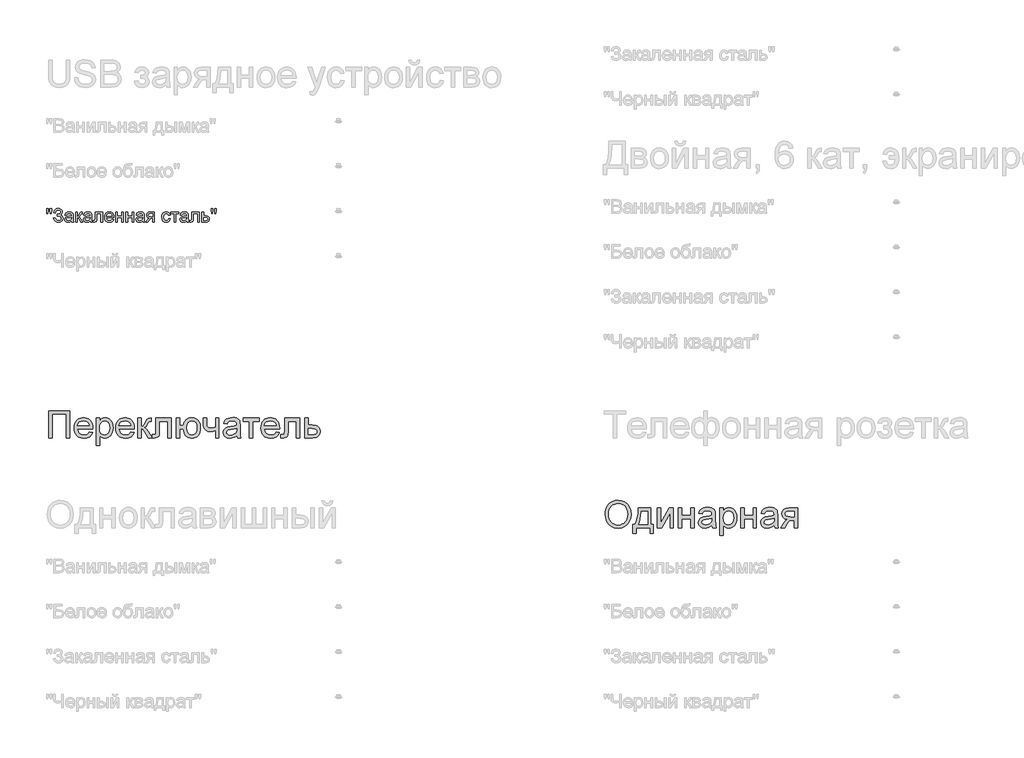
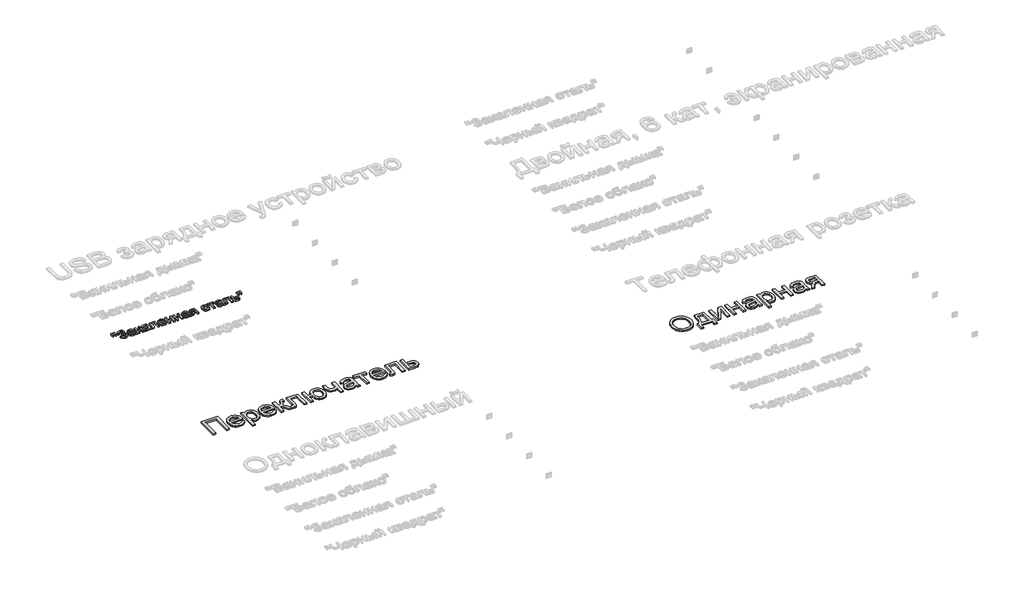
# One storey, part 144 of 168: 3 proxies.
"""IFC4 building model written with IfcOpenShell, lengths in millimetres."""

from ifc_helpers import new_model, si_unit, origin, origin_with_axes, place, context, project, spatial, polyline, outline, extrude, element, save

model = new_model("IFC4")

# Units and contexts
model_context = context("Model", 3, world=origin())
ifc_project = project(units=[si_unit("LENGTHUNIT", "METRE", prefix="MILLI")], contexts=[model_context])

# Site, building, storey
site = spatial("IfcSite", under=ifc_project)
building = spatial("IfcBuilding", under=site)
storey = spatial("IfcBuildingStorey", under=building, Name="Этаж 01", Elevation=0.0)

# Proxies
placement = place(None, origin())
element("IfcBuildingElementProxy", 1, Name="300 мм Arial 2", ObjectType="300 мм Arial 2", at=placement, inside=storey, context=model_context, shape_type="SweptSolid", body=[
    extrude(outline(polyline([(71099.0945017, -19547.0367511), (71334.5389786, -19547.0367511), (71334.5389786, -19848.4056816), (71296.8678623, -19848.4056816), (71296.8678623, -19584.7078674), (71136.765618, -19584.7078674), (71136.765618, -19848.4056816), (71099.0945017, -19848.4056816), (71099.0945017, -19547.0367511)])), origin_with_axes(), (0.0, 0.0, 1.0), 20.0),
    extrude(outline(polyline([(71550.7064389, -19782.481228), (71587.6417913, -19787.1901176), (71574.3336601, -19815.0203905), (71553.0976719, -19835.8241173), (71524.4120733, -19848.7919577), (71488.7551109, -19853.1145711), (71465.3808087, -19851.2498692), (71444.5540892, -19845.6557637), (71426.2749526, -19836.3322543), (71410.5433988, -19823.2793413), (71397.8928567, -19806.860308), (71388.8567552, -19787.4384379), (71383.4350943, -19765.013731), (71381.627874, -19739.5861874), (71383.4534884, -19713.2964203), (71388.9303316, -19690.1244531), (71398.0584036, -19670.0702859), (71410.8377044, -19653.1339185), (71426.5278715, -19639.6786346), (71444.3885423, -19630.0677174), (71464.419717, -19624.3011672), (71486.6213954, -19622.3789837), (71508.1080032, -19624.2965686), (71527.5390703, -19630.0493233), (71544.9145968, -19639.6372478), (71560.2345826, -19653.0603421), (71572.7402712, -19669.9599213), (71581.6729059, -19689.9773003), (71587.0324867, -19713.1124793), (71588.8190136, -19739.3654582), (71588.5982844, -19749.5190013), (71419.2989903, -19749.5190013), (71425.8196986, -19777.7171562), (71440.9672398, -19798.4473066), (71462.8286273, -19811.1944178), (71489.4908749, -19815.4434548), (71509.5404437, -19813.4752861), (71526.4262273, -19807.5707801), (71540.1482257, -19797.3620547), (71550.7064389, -19782.481228)]), holes=[polyline([(71419.2989903, -19711.847885), (71551.1478973, -19711.847885), (71546.0527317, -19691.945469), (71536.0647355, -19677.7084358), (71514.1021804, -19664.464684), (71486.4742426, -19660.0501), (71461.0811879, -19663.5725701), (71440.084323, -19674.1399805), (71425.4886048, -19690.6118968), (71419.2989903, -19711.847885)])]), origin_with_axes(), (0.0, 0.0, 1.0), 20.0),
    extrude(outline(polyline([(71626.4901299, -19933.1656933), (71626.4901299, -19627.0878733), (71664.1612462, -19627.0878733), (71664.1612462, -19664.0232256), (71676.4485049, -19645.8038698), (71690.2072915, -19632.7900442), (71706.2469465, -19624.9817488), (71725.3768102, -19622.3789837), (71750.8526384, -19626.0210155), (71773.1278932, -19636.9471107), (71791.2644756, -19654.4950819), (71804.3242864, -19678.0027414), (71812.2153552, -19705.7594379), (71814.8457115, -19736.0545202), (71811.8750644, -19768.271786), (71802.963123, -19797.0861432), (71788.394996, -19821.0352611), (71768.4557919, -19838.6568087), (71745.2332409, -19849.5001305), (71720.8150735, -19853.1145711), (71703.4970286, -19850.695747), (71688.0367877, -19843.4392746), (71674.802233, -19832.4855882), (71664.1612462, -19818.975122), (71664.1612462, -19933.1656933), (71626.4901299, -19933.1656933)]), holes=[polyline([(71664.1612462, -19739.512611), (71668.2355393, -19773.2841782), (71680.4584186, -19796.9022022), (71698.4938334, -19810.8081417), (71720.0057331, -19815.4434548), (71741.8671207, -19810.6425948), (71760.362388, -19796.2400147), (71772.9715434, -19771.7574679), (71777.1745952, -19736.7167078), (71773.0727109, -19703.1290817), (71760.7670582, -19679.1799638), (71742.7592345, -19664.832566), (71721.5508375, -19660.0501), (71700.259667, -19665.1360686), (71681.5620646, -19680.3939744), (71668.5114508, -19705.3455707), (71664.1612462, -19739.512611)])]), origin_with_axes(), (0.0, 0.0, 1.0), 20.0),
    extrude(outline(polyline([(72012.1776137, -19782.481228), (72049.112966, -19787.1901176), (72035.8048348, -19815.0203905), (72014.5688467, -19835.8241173), (71985.8832481, -19848.7919577), (71950.2262857, -19853.1145711), (71926.8519834, -19851.2498692), (71906.025264, -19845.6557637), (71887.7461273, -19836.3322543), (71872.0145735, -19823.2793413), (71859.3640314, -19806.860308), (71850.3279299, -19787.4384379), (71844.906269, -19765.013731), (71843.0990487, -19739.5861874), (71844.9246631, -19713.2964203), (71850.4015063, -19690.1244531), (71859.5295783, -19670.0702859), (71872.3088791, -19653.1339185), (71887.9990462, -19639.6786346), (71905.8597171, -19630.0677174), (71925.8908917, -19624.3011672), (71948.0925701, -19622.3789837), (71969.5791779, -19624.2965686), (71989.010245, -19630.0493233), (72006.3857715, -19639.6372478), (72021.7057574, -19653.0603421), (72034.2114459, -19669.9599213), (72043.1440806, -19689.9773003), (72048.5036614, -19713.1124793), (72050.2901884, -19739.3654582), (72050.0694592, -19749.5190013), (71880.770165, -19749.5190013), (71887.2908734, -19777.7171562), (71902.4384145, -19798.4473066), (71924.2998021, -19811.1944178), (71950.9620497, -19815.4434548), (71971.0116184, -19813.4752861), (71987.897402, -19807.5707801), (72001.6194004, -19797.3620547), (72012.1776137, -19782.481228)]), holes=[polyline([(71880.770165, -19711.847885), (72012.6190721, -19711.847885), (72007.5239064, -19691.945469), (71997.5359103, -19677.7084358), (71975.5733552, -19664.464684), (71947.9454173, -19660.0501), (71922.5523626, -19663.5725701), (71901.5554977, -19674.1399805), (71886.9597796, -19690.6118968), (71880.770165, -19711.847885)])]), origin_with_axes(), (0.0, 0.0, 1.0), 20.0),
    extrude(outline(polyline([(72290.4435548, -19627.0878733), (72459.9635782, -19627.0878733), (72459.9635782, -19848.1849524), (72422.2924619, -19848.1849524), (72422.2924619, -19664.7589896), (72328.1146711, -19664.7589896), (72328.1146711, -19770.3411222), (72325.5762854, -19819.0486984), (72320.8214106, -19830.0759612), (72311.6335578, -19839.6133019), (72297.6908301, -19846.2075866), (72278.671331, -19848.4056816), (72248.063549, -19846.4926952), (72248.063549, -19810.7345653), (72264.9125444, -19810.7345653), (72281.9454807, -19808.4169087), (72288.7512977, -19801.0592688), (72290.4435548, -19768.2074066), (72290.4435548, -19627.0878733)])), origin_with_axes(), (0.0, 0.0, 1.0), 20.0),
    extrude(outline(polyline([(72087.9613047, -19627.0878733), (72125.632421, -19627.0878733), (72125.632421, -19721.265664), (72140.9547061, -19719.5734069), (72150.8691259, -19714.4966353), (72159.6431115, -19701.2528835), (72171.544094, -19675.0596854), (72188.7241832, -19641.0306009), (72203.8809214, -19629.9573528), (72231.4352828, -19627.0878733), (72238.6457699, -19627.0878733), (72238.6457699, -19664.9797188), (72228.4922269, -19664.7589896), (72210.0981271, -19668.7321151), (72197.1486809, -19693.5273616), (72181.9551545, -19720.345959), (72160.6547869, -19733.4793463), (72172.5925577, -19738.7814455), (72184.4199638, -19748.1394438), (72207.7436823, -19779.0231373), (72248.063549, -19848.4056816), (72205.2420848, -19848.4056816), (72165.7315585, -19780.4946653), (72145.8659307, -19751.7630814), (72136.5769104, -19746.5483542), (72125.632421, -19744.8101117), (72125.632421, -19848.4056816), (72087.9613047, -19848.4056816), (72087.9613047, -19627.0878733)])), origin_with_axes(), (0.0, 0.0, 1.0), 20.0),
    extrude(outline(polyline([(72516.4702527, -19627.0878733), (72554.141369, -19627.0878733), (72554.141369, -19711.847885), (72596.5213748, -19711.847885), (72606.2978388, -19673.4410047), (72614.8212048, -19658.1003255), (72625.7679934, -19645.3348202), (72638.8301035, -19635.2916418), (72653.6994339, -19628.1179429), (72688.8597556, -19622.3789837), (72718.4098769, -19625.754301), (72740.9886343, -19635.880253), (72758.4078468, -19651.929105), (72772.4793331, -19673.0731227), (72781.7775505, -19700.8850015), (72784.8769564, -19736.937437), (72783.2743704, -19763.7928227), (72778.4666126, -19787.1901176), (72770.4536829, -19807.1293217), (72759.2355813, -19823.6104351), (72745.2721603, -19836.5184946), (72729.0232724, -19845.7385371), (72710.4889177, -19851.2705626), (72689.669096, -19853.1145711), (72670.26562, -19851.3855257), (72652.8900935, -19846.1983896), (72637.5425166, -19837.5531627), (72624.2228891, -19825.4498451), (72613.2623049, -19810.3298951), (72604.9918578, -19792.6347711), (72596.5213748, -19749.5190013), (72554.141369, -19749.5190013), (72554.141369, -19848.4056816), (72516.4702527, -19848.4056816), (72516.4702527, -19627.0878733)]), holes=[polyline([(72691.2877768, -19660.0501), (72667.2742795, -19664.9245365), (72649.2388647, -19679.5478458), (72637.9540845, -19702.9635348), (72634.1924911, -19734.2151103), (72637.9816757, -19770.6262307), (72649.3492293, -19795.8353445), (72667.0627474, -19810.5414272), (72689.8898252, -19815.4434548), (72712.7812824, -19810.9093092), (72731.1293969, -19797.3068724), (72743.1867293, -19773.6060749), (72747.20584, -19738.776847), (72743.7293552, -19704.3338952), (72733.2999006, -19679.7317868), (72715.8439, -19664.9705217), (72691.2877768, -19660.0501)])]), origin_with_axes(), (0.0, 0.0, 1.0), 20.0),
    extrude(outline(polyline([(72817.8391831, -19627.0878733), (72855.5102994, -19627.0878733), (72855.5102994, -19669.5414555), (72858.56372, -19709.3462874), (72863.7600532, -19720.9161761), (72873.2422116, -19730.9041723), (72886.3388106, -19737.8019597), (72902.3784656, -19740.1012222), (72925.4262726, -19737.2501367), (72954.3969797, -19728.6968803), (72954.3969797, -19627.0878733), (72992.068096, -19627.0878733), (72992.068096, -19848.4056816), (72954.3969797, -19848.4056816), (72954.3969797, -19764.8228923), (72922.2440934, -19774.5349769), (72892.2984989, -19777.7723385), (72869.5174064, -19774.3970212), (72849.5873993, -19764.2710693), (72834.0535821, -19749.2522868), (72824.461059, -19731.1984779), (72819.4946521, -19710.6522685), (72817.8391831, -19688.1562845), (72817.8391831, -19627.0878733)])), origin_with_axes(), (0.0, 0.0, 1.0), 20.0),
    extrude(outline(polyline([(73189.8414566, -19820.1523443), (73171.84283, -19835.584994), (73153.3107745, -19845.6833548), (73133.8222258, -19851.256767), (73112.9541197, -19853.1145711), (73081.4726179, -19848.6448049), (73058.250067, -19835.2355061), (73043.9302603, -19814.8732377), (73039.1569914, -19789.5445623), (73040.9596132, -19773.9279716), (73046.3674785, -19759.7461207), (73054.7092028, -19747.6060149), (73065.3134013, -19738.1146594), (73091.6905403, -19725.7538244), (73124.2848851, -19720.0884417), (73162.80213, -19714.1287533), (73189.6207274, -19707.1389954), (73189.8414566, -19698.7512859), (73187.2478886, -19681.9390788), (73179.4671844, -19670.9394071), (73162.066366, -19662.7724268), (73137.8229425, -19660.0501), (73115.3821408, -19661.8619189), (73099.7103678, -19667.2973753), (73089.0233959, -19677.3497509), (73081.5369973, -19693.0123268), (73043.865881, -19688.3034373), (73050.4049834, -19667.7020455), (73060.1630533, -19651.5152378), (73074.0505987, -19639.1360086), (73092.9781273, -19629.9573528), (73116.1271019, -19624.273576), (73142.6789849, -19622.3789837), (73168.145616, -19624.0528468), (73188.3331405, -19629.074436), (73203.554258, -19636.625214), (73214.1216683, -19645.8866432), (73221.1298203, -19657.3369703), (73225.673163, -19671.4544419), (73227.512573, -19704.4166687), (73227.512573, -19751.2848348), (73229.4255593, -19816.7310418), (73236.930352, -19848.4056816), (73199.2592357, -19848.4056816), (73189.8414566, -19820.1523443)]), holes=[polyline([(73189.8414566, -19744.8101117), (73129.067351, -19756.3616064), (73096.6569473, -19762.4684475), (73081.9784557, -19772.4012614), (73076.8281077, -19786.895812), (73079.6332079, -19798.0978187), (73088.0485086, -19807.2764745), (73101.8900686, -19813.4017097), (73120.9739471, -19815.4434548), (73141.2074569, -19813.1901776), (73159.0865218, -19806.4303459), (73173.5810725, -19796.4699409), (73183.6610391, -19784.6149436), (73188.1308054, -19772.4012614), (73189.6207274, -19755.4786896), (73189.8414566, -19744.8101117)])]), origin_with_axes(), (0.0, 0.0, 1.0), 20.0),
    extrude(outline(polyline([(73260.4747997, -19627.0878733), (73439.4126022, -19627.0878733), (73439.4126022, -19664.7589896), (73368.7792591, -19664.7589896), (73368.7792591, -19848.4056816), (73331.1081428, -19848.4056816), (73331.1081428, -19664.7589896), (73260.4747997, -19664.7589896), (73260.4747997, -19627.0878733)])), origin_with_axes(), (0.0, 0.0, 1.0), 20.0),
    extrude(outline(polyline([(73627.3267253, -19782.481228), (73664.2620776, -19787.1901176), (73650.9539465, -19815.0203905), (73629.7179583, -19835.8241173), (73601.0323597, -19848.7919577), (73565.3753973, -19853.1145711), (73542.0010951, -19851.2498692), (73521.1743756, -19845.6557637), (73502.895239, -19836.3322543), (73487.1636851, -19823.2793413), (73474.513143, -19806.860308), (73465.4770415, -19787.4384379), (73460.0553806, -19765.013731), (73458.2481603, -19739.5861874), (73460.0737747, -19713.2964203), (73465.5506179, -19690.1244531), (73474.6786899, -19670.0702859), (73487.4579907, -19653.1339185), (73503.1481578, -19639.6786346), (73521.0088287, -19630.0677174), (73541.0400033, -19624.3011672), (73563.2416818, -19622.3789837), (73584.7282895, -19624.2965686), (73604.1593567, -19630.0493233), (73621.5348831, -19639.6372478), (73636.854869, -19653.0603421), (73649.3605576, -19669.9599213), (73658.2931923, -19689.9773003), (73663.6527731, -19713.1124793), (73665.4393, -19739.3654582), (73665.2185708, -19749.5190013), (73495.9192766, -19749.5190013), (73502.439985, -19777.7171562), (73517.5875261, -19798.4473066), (73539.4489137, -19811.1944178), (73566.1111613, -19815.4434548), (73586.1607301, -19813.4752861), (73603.0465136, -19807.5707801), (73616.768512, -19797.3620547), (73627.3267253, -19782.481228)]), holes=[polyline([(73495.9192766, -19711.847885), (73627.7681837, -19711.847885), (73622.6730181, -19691.945469), (73612.6850219, -19677.7084358), (73590.7224668, -19664.464684), (73563.094529, -19660.0501), (73537.7014742, -19663.5725701), (73516.7046094, -19674.1399805), (73502.1088912, -19690.6118968), (73495.9192766, -19711.847885)])]), origin_with_axes(), (0.0, 0.0, 1.0), 20.0),
    extrude(outline(polyline([(73721.9459745, -19627.0878733), (73891.4659978, -19627.0878733), (73891.4659978, -19848.1849524), (73853.7948815, -19848.1849524), (73853.7948815, -19664.7589896), (73759.6170908, -19664.7589896), (73759.6170908, -19770.3411222), (73757.078705, -19819.0486984), (73752.3238302, -19830.0759612), (73743.1359774, -19839.6133019), (73729.1932498, -19846.2075866), (73710.1737506, -19848.4056816), (73679.5659686, -19846.4926952), (73679.5659686, -19810.7345653), (73696.414964, -19810.7345653), (73713.4479004, -19808.4169087), (73720.2537173, -19801.0592688), (73721.9459745, -19768.2074066), (73721.9459745, -19627.0878733)])), origin_with_axes(), (0.0, 0.0, 1.0), 20.0),
    extrude(outline(polyline([(73947.9726723, -19627.0878733), (73985.6437886, -19627.0878733), (73985.6437886, -19707.1389954), (74029.053864, -19707.1389954), (74066.6881922, -19711.857082), (74081.8357333, -19717.7546902), (74094.5368592, -19726.0113418), (74104.5800377, -19736.3419281), (74111.7537366, -19748.4613405), (74117.4926957, -19778.0666441), (74112.6090622, -19805.0231973), (74097.9581617, -19827.7675016), (74086.7262646, -19836.7967054), (74072.565107, -19843.2461366), (74035.4550108, -19848.4056816), (73947.9726723, -19848.4056816), (73947.9726723, -19627.0878733)]), holes=[polyline([(73985.6437886, -19810.7345653), (74020.8133074, -19810.7345653), (74048.1009543, -19808.7571995), (74066.2467338, -19802.8251024), (74076.427868, -19792.6991504), (74079.8215794, -19778.1402205), (74077.3107848, -19765.8345678), (74069.7784009, -19754.9636548), (74053.6375784, -19747.3484975), (74025.3014677, -19744.8101117), (73985.6437886, -19744.8101117), (73985.6437886, -19810.7345653)])]), origin_with_axes(), (0.0, 0.0, 1.0), 20.0),
])
element("IfcBuildingElementProxy", 2, Name="300 мм Arial 2", ObjectType="300 мм Arial 2", at=placement, inside=storey, context=model_context, shape_type="SweptSolid", body=[
    extrude(outline(polyline([(77284.967833, -20701.6943419), (77287.4786277, -20666.3454807), (77295.0110115, -20635.0525185), (77307.5649846, -20607.8154552), (77325.1405469, -20584.634291), (77346.6846363, -20566.1252281), (77371.1441904, -20552.9044689), (77398.5192094, -20544.9720134), (77428.8096932, -20542.3278616), (77468.3386135, -20547.2942685), (77503.7840438, -20562.1934893), (77533.2146034, -20585.9770603), (77554.6989119, -20617.5965178), (77567.8322991, -20655.5251515), (77572.2100949, -20698.2362511), (77567.6023729, -20741.5175679), (77553.7792069, -20779.9796305), (77531.5039521, -20811.6542703), (77501.5399636, -20834.5733186), (77466.398036, -20848.479258), (77428.588964, -20853.1145711), (77388.4530383, -20847.9918143), (77352.805273, -20832.623544), (77323.4482897, -20808.3985146), (77302.1847104, -20776.7054807), (77289.2720524, -20740.2391779), (77284.967833, -20701.6943419)]), holes=[polyline([(77322.6389493, -20702.0622239), (77324.5220453, -20727.0368128), (77330.1713332, -20749.2063016), (77339.586813, -20768.5706901), (77352.7684848, -20785.1299784), (77368.7920449, -20798.3921243), (77386.73319, -20807.8650857), (77406.5919199, -20813.5488625), (77428.3682348, -20815.4434548), (77450.5170301, -20813.5304684), (77470.6102849, -20807.7915093), (77488.6479989, -20798.2265774), (77504.6301724, -20784.8356728), (77517.7152751, -20767.9268966), (77527.061777, -20747.80835), (77532.6696782, -20724.480033), (77534.5389786, -20697.9419455), (77531.3384052, -20664.5934427), (77521.7366851, -20635.7698884), (77505.9821387, -20612.1978495), (77484.3230862, -20594.6038931), (77458.1942675, -20583.6502067), (77429.0304224, -20579.9989779), (77408.0105649, -20581.7579137), (77388.5082206, -20587.034721), (77370.5233895, -20595.8294), (77354.0560717, -20608.1419505), (77340.3110807, -20624.5655823), (77330.4932299, -20645.6935052), (77324.6025195, -20671.525719), (77322.6389493, -20702.0622239)])]), origin_with_axes(), (0.0, 0.0, 1.0), 20.0),
    extrude(outline(polyline([(77652.261217, -20627.0878733), (77793.5279032, -20627.0878733), (77793.5279032, -20810.7345653), (77821.7812404, -20810.7345653), (77821.7812404, -20909.6212456), (77784.1101241, -20909.6212456), (77784.1101241, -20848.4056816), (77628.7167693, -20848.4056816), (77628.7167693, -20909.6212456), (77591.045653, -20909.6212456), (77591.045653, -20810.7345653), (77614.5901007, -20810.7345653), (77631.7058105, -20779.8048865), (77643.6895665, -20738.8872116), (77650.5413687, -20687.9815405), (77652.261217, -20627.0878733)]), holes=[polyline([(77685.2234438, -20664.7589896), (77682.133235, -20710.8821947), (77676.3942759, -20750.5858591), (77668.0065664, -20783.8699826), (77656.9701066, -20810.7345653), (77755.8567869, -20810.7345653), (77755.8567869, -20664.7589896), (77685.2234438, -20664.7589896)])]), origin_with_axes(), (0.0, 0.0, 1.0), 20.0),
    extrude(outline(polyline([(77864.1612462, -20627.0878733), (77901.8323626, -20627.0878733), (77901.8323626, -20795.8721327), (77994.3914725, -20627.0878733), (78043.0990487, -20627.0878733), (78043.0990487, -20848.4056816), (78005.4279324, -20848.4056816), (78005.4279324, -20680.6514918), (77913.4574336, -20848.4056816), (77864.1612462, -20848.4056816), (77864.1612462, -20627.0878733)])), origin_with_axes(), (0.0, 0.0, 1.0), 20.0),
    extrude(outline(polyline([(78099.6057232, -20627.0878733), (78137.2768395, -20627.0878733), (78137.2768395, -20711.847885), (78236.1635198, -20711.847885), (78236.1635198, -20627.0878733), (78273.8346361, -20627.0878733), (78273.8346361, -20848.4056816), (78236.1635198, -20848.4056816), (78236.1635198, -20749.5190013), (78137.2768395, -20749.5190013), (78137.2768395, -20848.4056816), (78099.6057232, -20848.4056816), (78099.6057232, -20627.0878733)])), origin_with_axes(), (0.0, 0.0, 1.0), 20.0),
    extrude(outline(polyline([(78471.6079967, -20820.1523443), (78453.6093701, -20835.584994), (78435.0773146, -20845.6833548), (78415.5887659, -20851.256767), (78394.7206597, -20853.1145711), (78363.239158, -20848.6448049), (78340.016607, -20835.2355061), (78325.6968003, -20814.8732377), (78320.9235315, -20789.5445623), (78322.7261532, -20773.9279716), (78328.1340186, -20759.7461207), (78336.4757428, -20747.6060149), (78347.0799413, -20738.1146594), (78373.4570804, -20725.7538244), (78406.0514251, -20720.0884417), (78444.56867, -20714.1287533), (78471.3872675, -20707.1389954), (78471.6079967, -20698.7512859), (78469.0144286, -20681.9390788), (78461.2337244, -20670.9394071), (78443.832906, -20662.7724268), (78419.5894826, -20660.0501), (78397.1486809, -20661.8619189), (78381.4769079, -20667.2973753), (78370.7899359, -20677.3497509), (78363.3035373, -20693.0123268), (78325.632421, -20688.3034373), (78332.1715235, -20667.7020455), (78341.9295934, -20651.5152378), (78355.8171387, -20639.1360086), (78374.7446674, -20629.9573528), (78397.8936419, -20624.273576), (78424.4455249, -20622.3789837), (78449.912156, -20624.0528468), (78470.0996805, -20629.074436), (78485.3207981, -20636.625214), (78495.8882084, -20645.8866432), (78502.8963604, -20657.3369703), (78507.439703, -20671.4544419), (78509.279113, -20704.4166687), (78509.279113, -20751.2848348), (78511.1920994, -20816.7310418), (78518.6968921, -20848.4056816), (78481.0257758, -20848.4056816), (78471.6079967, -20820.1523443)]), holes=[polyline([(78471.6079967, -20744.8101117), (78410.8338911, -20756.3616064), (78378.4234873, -20762.4684475), (78363.7449957, -20772.4012614), (78358.5946478, -20786.895812), (78361.399748, -20798.0978187), (78369.8150486, -20807.2764745), (78383.6566087, -20813.4017097), (78402.7404872, -20815.4434548), (78422.9739969, -20813.1901776), (78440.8530619, -20806.4303459), (78455.3476125, -20796.4699409), (78465.4275792, -20784.6149436), (78469.8973454, -20772.4012614), (78471.3872675, -20755.4786896), (78471.6079967, -20744.8101117)])]), origin_with_axes(), (0.0, 0.0, 1.0), 20.0),
    extrude(outline(polyline([(78561.0768979, -20933.1656933), (78561.0768979, -20627.0878733), (78598.7480142, -20627.0878733), (78598.7480142, -20664.0232256), (78611.0352729, -20645.8038698), (78624.7940595, -20632.7900442), (78640.8337145, -20624.9817488), (78659.9635782, -20622.3789837), (78685.4394064, -20626.0210155), (78707.7146612, -20636.9471107), (78725.8512436, -20654.4950819), (78738.9110544, -20678.0027414), (78746.8021232, -20705.7594379), (78749.4324794, -20736.0545202), (78746.4618323, -20768.271786), (78737.549891, -20797.0861432), (78722.981764, -20821.0352611), (78703.0425599, -20838.6568087), (78679.8200089, -20849.5001305), (78655.4018415, -20853.1145711), (78638.0837966, -20850.695747), (78622.6235557, -20843.4392746), (78609.3890009, -20832.4855882), (78598.7480142, -20818.975122), (78598.7480142, -20933.1656933), (78561.0768979, -20933.1656933)]), holes=[polyline([(78598.7480142, -20739.512611), (78602.8223073, -20773.2841782), (78615.0451866, -20796.9022022), (78633.0806014, -20810.8081417), (78654.5925011, -20815.4434548), (78676.4538886, -20810.6425948), (78694.949156, -20796.2400147), (78707.5583113, -20771.7574679), (78711.7613631, -20736.7167078), (78707.6594789, -20703.1290817), (78695.3538262, -20679.1799638), (78677.3460025, -20664.832566), (78656.1376055, -20660.0501), (78634.846435, -20665.1360686), (78616.1488326, -20680.3939744), (78603.0982188, -20705.3455707), (78598.7480142, -20739.512611)])]), origin_with_axes(), (0.0, 0.0, 1.0), 20.0),
    extrude(outline(polyline([(78791.8124853, -20627.0878733), (78829.4836016, -20627.0878733), (78829.4836016, -20711.847885), (78928.3702819, -20711.847885), (78928.3702819, -20627.0878733), (78966.0413982, -20627.0878733), (78966.0413982, -20848.4056816), (78928.3702819, -20848.4056816), (78928.3702819, -20749.5190013), (78829.4836016, -20749.5190013), (78829.4836016, -20848.4056816), (78791.8124853, -20848.4056816), (78791.8124853, -20627.0878733)])), origin_with_axes(), (0.0, 0.0, 1.0), 20.0),
    extrude(outline(polyline([(79163.8147588, -20820.1523443), (79145.8161322, -20835.584994), (79127.2840767, -20845.6833548), (79107.795528, -20851.256767), (79086.9274218, -20853.1145711), (79055.4459201, -20848.6448049), (79032.2233691, -20835.2355061), (79017.9035625, -20814.8732377), (79013.1302936, -20789.5445623), (79014.9329154, -20773.9279716), (79020.3407807, -20759.7461207), (79028.6825049, -20747.6060149), (79039.2867034, -20738.1146594), (79065.6638425, -20725.7538244), (79098.2581873, -20720.0884417), (79136.7754322, -20714.1287533), (79163.5940296, -20707.1389954), (79163.8147588, -20698.7512859), (79161.2211907, -20681.9390788), (79153.4404865, -20670.9394071), (79136.0396682, -20662.7724268), (79111.7962447, -20660.0501), (79089.355443, -20661.8619189), (79073.68367, -20667.2973753), (79062.996698, -20677.3497509), (79055.5102994, -20693.0123268), (79017.8391831, -20688.3034373), (79024.3782856, -20667.7020455), (79034.1363555, -20651.5152378), (79048.0239008, -20639.1360086), (79066.9514295, -20629.9573528), (79090.100404, -20624.273576), (79116.652287, -20622.3789837), (79142.1189181, -20624.0528468), (79162.3064426, -20629.074436), (79177.5275602, -20636.625214), (79188.0949705, -20645.8866432), (79195.1031225, -20657.3369703), (79199.6464651, -20671.4544419), (79201.4858751, -20704.4166687), (79201.4858751, -20751.2848348), (79203.3988615, -20816.7310418), (79210.9036542, -20848.4056816), (79173.2325379, -20848.4056816), (79163.8147588, -20820.1523443)]), holes=[polyline([(79163.8147588, -20744.8101117), (79103.0406532, -20756.3616064), (79070.6302494, -20762.4684475), (79055.9517578, -20772.4012614), (79050.8014099, -20786.895812), (79053.6065101, -20798.0978187), (79062.0218107, -20807.2764745), (79075.8633708, -20813.4017097), (79094.9472493, -20815.4434548), (79115.180759, -20813.1901776), (79133.059824, -20806.4303459), (79147.5543746, -20796.4699409), (79157.6343413, -20784.6149436), (79162.1041075, -20772.4012614), (79163.5940296, -20755.4786896), (79163.8147588, -20744.8101117)])]), origin_with_axes(), (0.0, 0.0, 1.0), 20.0),
    extrude(outline(polyline([(79422.8036834, -20627.0878733), (79422.8036834, -20848.4056816), (79385.1325671, -20848.4056816), (79385.1325671, -20763.6456699), (79364.6047518, -20763.6456699), (79336.6457201, -20768.4281358), (79325.4805016, -20778.8575904), (79310.3789457, -20800.5810222), (79280.3597749, -20848.4056816), (79236.8025467, -20848.4056816), (79274.6208158, -20787.9258816), (79291.3226583, -20766.2208438), (79306.7001257, -20756.5823356), (79280.9483861, -20748.6912668), (79262.8485919, -20733.7000755), (79252.1432259, -20713.7608713), (79248.5747705, -20691.025764), (79253.4492069, -20665.2372362), (79268.0725162, -20644.8197854), (79291.9296636, -20631.5208513), (79324.5056143, -20627.0878733), (79422.8036834, -20627.0878733)]), holes=[polyline([(79385.1325671, -20664.7589896), (79335.4684978, -20664.7589896), (79309.8179256, -20666.9386904), (79295.2589957, -20673.4777929), (79288.499164, -20682.9415572), (79286.2458868, -20693.8952436), (79289.5660218, -20708.2518385), (79299.5264268, -20718.2122435), (79317.9297236, -20724.033976), (79346.578534, -20725.9745536), (79385.1325671, -20725.9745536), (79385.1325671, -20664.7589896)])]), origin_with_axes(), (0.0, 0.0, 1.0), 20.0),
])
element("IfcBuildingElementProxy", 3, Name="150", ObjectType="150", at=placement, inside=storey, context=model_context, shape_type="SweptSolid", body=[
    extrude(outline(polyline([(71080.1485789, -17351.873446), (71075.550054, -17322.7739802), (71075.550054, -17297.7212163), (71094.3856121, -17297.7212163), (71094.3856121, -17322.7739802), (71090.2653338, -17351.873446), (71080.1485789, -17351.873446)])), origin_with_axes(), (0.0, 0.0, 1.0), 20.0),
    extrude(outline(polyline([(71117.7093306, -17351.873446), (71113.2211703, -17322.7739802), (71113.2211703, -17297.7212163), (71132.0567284, -17297.7212163), (71132.0567284, -17322.7739802), (71127.6421445, -17351.873446), (71117.7093306, -17351.873446)])), origin_with_axes(), (0.0, 0.0, 1.0), 20.0),
    extrude(outline(polyline([(71150.8922866, -17406.0256757), (71169.7278447, -17401.3167862), (71181.2977335, -17421.7158428), (71192.2284273, -17429.3723868), (71206.2217387, -17431.9245682), (71220.398991, -17430.0069833), (71231.2193202, -17424.2542286), (71238.0757209, -17415.7883442), (71240.3611878, -17405.7313701), (71237.8641888, -17395.1961495), (71230.3731916, -17387.0613589), (71218.5779752, -17381.8604272), (71203.1683181, -17380.1267833), (71193.2722924, -17380.1267833), (71193.2722924, -17361.2912251), (71214.591054, -17359.7645148), (71227.6324708, -17351.9654165), (71233.2978535, -17337.7099892), (71231.4124583, -17328.8394346), (71225.7562726, -17321.2104817), (71216.8811195, -17315.9543677), (71205.3388219, -17314.2023297), (71186.1169876, -17319.591801), (71175.117316, -17333.8840165), (71172.0822895, -17347.1645565), (71153.2467313, -17342.455667), (71159.0983543, -17321.8542752), (71169.7002536, -17307.1389954), (71185.0524291, -17298.3098275), (71205.1548809, -17295.3667716), (71224.5468605, -17298.4247907), (71239.4598769, -17307.5988479), (71248.965028, -17320.8655924), (71252.1334117, -17336.201673), (71247.2037929, -17354.8440931), (71232.4149367, -17368.7592296), (71242.8903765, -17373.5830823), (71251.5080123, -17381.7270699), (71257.2745625, -17392.4922168), (71259.196746, -17405.1795471), (71255.508729, -17423.0172254), (71244.444678, -17437.6819214), (71227.2921799, -17447.4905751), (71205.3388219, -17450.7601263), (71186.2365493, -17447.9642232), (71170.7947025, -17439.5765137), (71159.0132816, -17425.5969979), (71150.8922866, -17406.0256757)])), origin_with_axes(), (0.0, 0.0, 1.0), 20.0),
    extrude(outline(polyline([(71353.3745367, -17434.279013), (71335.1091957, -17447.0445182), (71314.9308682, -17450.7601263), (71299.1901174, -17448.5252432), (71287.5788419, -17441.8205939), (71280.4189386, -17431.6394596), (71278.0323041, -17418.975122), (71281.6375477, -17404.0759012), (71291.110509, -17393.2601705), (71304.2990786, -17387.079753), (71320.596251, -17384.2470616), (71353.2641721, -17377.7723385), (71353.3745367, -17373.5784838), (71352.0777527, -17365.1723802), (71348.1874006, -17359.6725443), (71339.4869914, -17355.5890542), (71327.3652797, -17354.2278908), (71308.3089923, -17357.8515285), (71299.222307, -17370.7090042), (71280.3867489, -17368.3545594), (71288.5353351, -17349.9604597), (71304.9428721, -17339.1815172), (71329.7933008, -17335.3923327), (71352.6203786, -17338.7400588), (71365.5146426, -17347.1461624), (71371.2903899, -17359.9300617), (71372.2100949, -17376.4111751), (71372.2100949, -17399.8452582), (71373.1665881, -17432.5683617), (71376.9189844, -17448.4056816), (71358.0834263, -17448.4056816), (71353.3745367, -17434.279013)]), holes=[polyline([(71353.3745367, -17396.6078966), (71322.9874839, -17402.383644), (71306.782282, -17405.4370645), (71299.4430362, -17410.4034715), (71296.8678623, -17417.6507468), (71302.4780627, -17427.841078), (71318.940782, -17431.9245682), (71337.9970693, -17427.4180137), (71350.284328, -17416.5103126), (71353.2641721, -17401.9421856), (71353.3745367, -17396.6078966)])]), origin_with_axes(), (0.0, 0.0, 1.0), 20.0),
    extrude(outline(polyline([(71398.1089873, -17337.7467774), (71416.9445455, -17337.7467774), (71416.9445455, -17384.8356728), (71429.5628979, -17381.4511584), (71439.900382, -17361.7326835), (71448.4904266, -17344.7181412), (71456.0687957, -17339.1815172), (71469.8459764, -17337.7467774), (71473.4512199, -17337.7467774), (71473.4512199, -17356.6927002), (71468.3744484, -17356.5823356), (71459.1773985, -17358.5688983), (71452.7026754, -17370.9665216), (71445.1059122, -17384.3758203), (71434.4557285, -17390.9425139), (71446.3383169, -17398.2725627), (71458.0001762, -17413.7144094), (71478.1601095, -17448.4056816), (71456.7493774, -17448.4056816), (71436.9941142, -17414.4501734), (71427.0613004, -17400.0843815), (71416.9445455, -17396.6078966), (71416.9445455, -17448.4056816), (71398.1089873, -17448.4056816), (71398.1089873, -17337.7467774)])), origin_with_axes(), (0.0, 0.0, 1.0), 20.0),
    extrude(outline(polyline([(71560.5656764, -17434.279013), (71542.3003353, -17447.0445182), (71522.1220079, -17450.7601263), (71506.381257, -17448.5252432), (71494.7699816, -17441.8205939), (71487.6100782, -17431.6394596), (71485.2234438, -17418.975122), (71488.8286873, -17404.0759012), (71498.3016487, -17393.2601705), (71511.4902183, -17387.079753), (71527.7873906, -17384.2470616), (71560.4553118, -17377.7723385), (71560.5656764, -17373.5784838), (71559.2688924, -17365.1723802), (71555.3785403, -17359.6725443), (71546.6781311, -17355.5890542), (71534.5564193, -17354.2278908), (71515.500132, -17357.8515285), (71506.4134467, -17370.7090042), (71487.5778886, -17368.3545594), (71495.7264748, -17349.9604597), (71512.1340117, -17339.1815172), (71536.9844405, -17335.3923327), (71559.8115183, -17338.7400588), (71572.7057822, -17347.1461624), (71578.4815296, -17359.9300617), (71579.4012346, -17376.4111751), (71579.4012346, -17399.8452582), (71580.3577277, -17432.5683617), (71584.1101241, -17448.4056816), (71565.2745659, -17448.4056816), (71560.5656764, -17434.279013)]), holes=[polyline([(71560.5656764, -17396.6078966), (71530.1786236, -17402.383644), (71513.9734217, -17405.4370645), (71506.6341759, -17410.4034715), (71504.0590019, -17417.6507468), (71509.6692024, -17427.841078), (71526.1319217, -17431.9245682), (71545.188209, -17427.4180137), (71557.4754676, -17416.5103126), (71560.4553118, -17401.9421856), (71560.5656764, -17396.6078966)])]), origin_with_axes(), (0.0, 0.0, 1.0), 20.0),
    extrude(outline(polyline([(71614.7179061, -17337.7467774), (71699.4779178, -17337.7467774), (71699.4779178, -17448.295317), (71680.6423596, -17448.295317), (71680.6423596, -17356.5823356), (71633.5534643, -17356.5823356), (71633.5534643, -17409.3734019), (71632.2842714, -17433.72719), (71625.3129076, -17444.0094917), (71608.8317942, -17448.4056816), (71593.5279032, -17447.4491884), (71593.5279032, -17429.5701234), (71601.9524009, -17429.5701234), (71610.4688691, -17428.4112951), (71613.8717775, -17424.7324752), (71614.7179061, -17408.3065441), (71614.7179061, -17337.7467774)])), origin_with_axes(), (0.0, 0.0, 1.0), 20.0),
    extrude(outline(polyline([(71805.2072032, -17415.4434548), (71823.6748794, -17417.7978996), (71817.0208138, -17431.713036), (71806.4028197, -17442.1148995), (71792.0600204, -17448.5988196), (71774.2315392, -17450.7601263), (71752.1310283, -17447.0307226), (71735.1256831, -17435.8425114), (71724.2823613, -17417.9220597), (71720.6679207, -17393.9959345), (71724.3191495, -17369.2650674), (71735.2728359, -17350.7698), (71752.0482549, -17339.2366995), (71773.1646814, -17335.3923327), (71793.6235189, -17339.2275025), (71809.971275, -17350.7330118), (71820.6904367, -17369.191491), (71824.2634906, -17393.8855699), (71824.153126, -17398.9623414), (71739.5034789, -17398.9623414), (71742.763833, -17413.0614189), (71750.3376036, -17423.4264941), (71761.2682974, -17429.8000497), (71774.5994212, -17431.9245682), (71793.0670974, -17427.9882308), (71805.2072032, -17415.4434548)]), holes=[polyline([(71739.5034789, -17380.1267833), (71805.4279324, -17380.1267833), (71802.8803496, -17370.1755753), (71797.8863515, -17363.0570587), (71786.9050739, -17356.4351828), (71773.091105, -17354.2278908), (71760.3945777, -17355.9891259), (71749.8961452, -17361.272831), (71742.5982861, -17369.5087892), (71739.5034789, -17380.1267833)])]), origin_with_axes(), (0.0, 0.0, 1.0), 20.0),
    extrude(outline(polyline([(71843.0990487, -17337.7467774), (71861.9346069, -17337.7467774), (71861.9346069, -17380.1267833), (71911.377947, -17380.1267833), (71911.377947, -17337.7467774), (71930.2135052, -17337.7467774), (71930.2135052, -17448.4056816), (71911.377947, -17448.4056816), (71911.377947, -17398.9623414), (71861.9346069, -17398.9623414), (71861.9346069, -17448.4056816), (71843.0990487, -17448.4056816), (71843.0990487, -17337.7467774)])), origin_with_axes(), (0.0, 0.0, 1.0), 20.0),
    extrude(outline(polyline([(71958.4668424, -17337.7467774), (71977.3024005, -17337.7467774), (71977.3024005, -17380.1267833), (72026.7457407, -17380.1267833), (72026.7457407, -17337.7467774), (72045.5812988, -17337.7467774), (72045.5812988, -17448.4056816), (72026.7457407, -17448.4056816), (72026.7457407, -17398.9623414), (71977.3024005, -17398.9623414), (71977.3024005, -17448.4056816), (71958.4668424, -17448.4056816), (71958.4668424, -17337.7467774)])), origin_with_axes(), (0.0, 0.0, 1.0), 20.0),
    extrude(outline(polyline([(72144.4679792, -17434.279013), (72126.2026381, -17447.0445182), (72106.0243107, -17450.7601263), (72090.2835598, -17448.5252432), (72078.6722843, -17441.8205939), (72071.512381, -17431.6394596), (72069.1257465, -17418.975122), (72072.7309901, -17404.0759012), (72082.2039515, -17393.2601705), (72095.392521, -17387.079753), (72111.6896934, -17384.2470616), (72144.3576146, -17377.7723385), (72144.4679792, -17373.5784838), (72143.1711951, -17365.1723802), (72139.280843, -17359.6725443), (72130.5804338, -17355.5890542), (72118.4587221, -17354.2278908), (72099.4024347, -17357.8515285), (72090.3157495, -17370.7090042), (72071.4801913, -17368.3545594), (72079.6287775, -17349.9604597), (72096.0363145, -17339.1815172), (72120.8867433, -17335.3923327), (72143.7138211, -17338.7400588), (72156.608085, -17347.1461624), (72162.3838323, -17359.9300617), (72163.3035373, -17376.4111751), (72163.3035373, -17399.8452582), (72164.2600305, -17432.5683617), (72168.0124268, -17448.4056816), (72149.1768687, -17448.4056816), (72144.4679792, -17434.279013)]), holes=[polyline([(72144.4679792, -17396.6078966), (72114.0809264, -17402.383644), (72097.8757245, -17405.4370645), (72090.5364787, -17410.4034715), (72087.9613047, -17417.6507468), (72093.5715051, -17427.841078), (72110.0342244, -17431.9245682), (72129.0905118, -17427.4180137), (72141.3777704, -17416.5103126), (72144.3576146, -17401.9421856), (72144.4679792, -17396.6078966)])]), origin_with_axes(), (0.0, 0.0, 1.0), 20.0),
    extrude(outline(polyline([(72273.9624415, -17337.7467774), (72273.9624415, -17448.4056816), (72255.1268833, -17448.4056816), (72255.1268833, -17406.0256757), (72244.8629756, -17406.0256757), (72230.8834598, -17408.4169087), (72217.7500726, -17424.4933519), (72202.7404872, -17448.4056816), (72180.9618731, -17448.4056816), (72199.8710076, -17418.1657816), (72208.2219289, -17407.3132627), (72215.9106626, -17402.4940086), (72203.0347928, -17398.5484742), (72193.9848957, -17391.0528785), (72188.6322127, -17381.0832765), (72186.847985, -17369.7157228), (72189.2852032, -17356.8214589), (72196.5968579, -17346.6127335), (72208.5254316, -17339.9632664), (72224.8134069, -17337.7467774), (72273.9624415, -17337.7467774)]), holes=[polyline([(72255.1268833, -17356.5823356), (72230.2948486, -17356.5823356), (72217.4695626, -17357.672186), (72210.1900976, -17360.9417372), (72205.6835431, -17371.1504626), (72207.3436107, -17378.32876), (72212.3238132, -17383.3089625), (72235.8498668, -17387.1901176), (72255.1268833, -17387.1901176), (72255.1268833, -17356.5823356)])]), origin_with_axes(), (0.0, 0.0, 1.0), 20.0),
    extrude(outline(polyline([(72431.710241, -17408.3801205), (72450.5457991, -17410.7345653), (72445.2942837, -17427.4869916), (72435.4258491, -17440.1467308), (72421.8693976, -17448.1067774), (72405.5538311, -17450.7601263), (72385.518058, -17447.0583138), (72369.8508835, -17435.952876), (72359.7387272, -17417.9312568), (72356.3680084, -17393.4808997), (72357.8073467, -17376.7192763), (72362.1253616, -17362.192536), (72369.391031, -17350.4616989), (72379.6733328, -17342.087785), (72391.974387, -17337.0661957), (72405.2963137, -17335.3923327), (72421.2118085, -17337.6915951), (72433.9359271, -17344.5893825), (72443.0639991, -17355.7178129), (72448.1913544, -17370.7090042), (72429.3557962, -17373.063449), (72420.6185988, -17358.9551744), (72405.4434665, -17354.2278908), (72393.271171, -17356.5547444), (72383.6096701, -17363.5353053), (72377.3050924, -17375.5466524), (72375.2035665, -17392.9658649), (72377.2591072, -17410.6196021), (72383.4257291, -17422.672336), (72392.9124861, -17429.6115101), (72404.9284317, -17431.9245682), (72414.6819031, -17430.4806314), (72422.678738, -17426.1488209), (72428.4958721, -17418.8187721), (72431.710241, -17408.3801205)])), origin_with_axes(), (0.0, 0.0, 1.0), 20.0),
    extrude(outline(polyline([(72457.6091334, -17337.7467774), (72547.0780347, -17337.7467774), (72547.0780347, -17356.5823356), (72511.7613631, -17356.5823356), (72511.7613631, -17448.4056816), (72492.925805, -17448.4056816), (72492.925805, -17356.5823356), (72457.6091334, -17356.5823356), (72457.6091334, -17337.7467774)])), origin_with_axes(), (0.0, 0.0, 1.0), 20.0),
    extrude(outline(polyline([(72634.1924911, -17434.279013), (72615.9271501, -17447.0445182), (72595.7488226, -17450.7601263), (72580.0080718, -17448.5252432), (72568.3967963, -17441.8205939), (72561.236893, -17431.6394596), (72558.8502585, -17418.975122), (72562.4555021, -17404.0759012), (72571.9284634, -17393.2601705), (72585.117033, -17387.079753), (72601.4142054, -17384.2470616), (72634.0821265, -17377.7723385), (72634.1924911, -17373.5784838), (72632.8957071, -17365.1723802), (72629.005355, -17359.6725443), (72620.3049458, -17355.5890542), (72608.1832341, -17354.2278908), (72589.1269467, -17357.8515285), (72580.0402614, -17370.7090042), (72561.2047033, -17368.3545594), (72569.3532895, -17349.9604597), (72585.7608265, -17339.1815172), (72610.6112552, -17335.3923327), (72633.438333, -17338.7400588), (72646.332597, -17347.1461624), (72652.1083443, -17359.9300617), (72653.0280493, -17376.4111751), (72653.0280493, -17399.8452582), (72653.9845425, -17432.5683617), (72657.7369388, -17448.4056816), (72638.9013807, -17448.4056816), (72634.1924911, -17434.279013)]), holes=[polyline([(72634.1924911, -17396.6078966), (72603.8054383, -17402.383644), (72587.6002364, -17405.4370645), (72580.2609906, -17410.4034715), (72577.6858167, -17417.6507468), (72583.2960171, -17427.841078), (72599.7587364, -17431.9245682), (72618.8150237, -17427.4180137), (72631.1022824, -17416.5103126), (72634.0821265, -17401.9421856), (72634.1924911, -17396.6078966)])]), origin_with_axes(), (0.0, 0.0, 1.0), 20.0),
    extrude(outline(polyline([(72688.3447208, -17337.7467774), (72773.1047325, -17337.7467774), (72773.1047325, -17448.295317), (72754.2691744, -17448.295317), (72754.2691744, -17356.5823356), (72707.180279, -17356.5823356), (72707.180279, -17409.3734019), (72705.9110861, -17433.72719), (72698.9397223, -17444.0094917), (72682.4586089, -17448.4056816), (72667.1547179, -17447.4491884), (72667.1547179, -17429.5701234), (72675.5792156, -17429.5701234), (72684.0956838, -17428.4112951), (72687.4985922, -17424.7324752), (72688.3447208, -17408.3065441), (72688.3447208, -17337.7467774)])), origin_with_axes(), (0.0, 0.0, 1.0), 20.0),
    extrude(outline(polyline([(72801.3580697, -17337.7467774), (72820.1936279, -17337.7467774), (72820.1936279, -17377.7723385), (72841.8986656, -17377.7723385), (72860.7158297, -17380.1313818), (72874.6401632, -17387.2085117), (72883.2486019, -17398.433511), (72886.1180814, -17413.2361628), (72883.6762647, -17426.7144394), (72876.3508145, -17438.0865916), (72863.6542871, -17445.8259091), (72845.099239, -17448.4056816), (72801.3580697, -17448.4056816), (72801.3580697, -17337.7467774)]), holes=[polyline([(72820.1936279, -17429.5701234), (72837.7783873, -17429.5701234), (72860.4951005, -17425.615392), (72865.5856676, -17420.552416), (72867.2825233, -17413.272951), (72862.260934, -17401.6846682), (72854.1905228, -17397.8770895), (72840.0224674, -17396.6078966), (72820.1936279, -17396.6078966), (72820.1936279, -17429.5701234)])]), origin_with_axes(), (0.0, 0.0, 1.0), 20.0),
    extrude(outline(polyline([(72909.5521645, -17351.873446), (72904.9536396, -17322.7739802), (72904.9536396, -17297.7212163), (72923.7891977, -17297.7212163), (72923.7891977, -17322.7739802), (72919.6689194, -17351.873446), (72909.5521645, -17351.873446)])), origin_with_axes(), (0.0, 0.0, 1.0), 20.0),
    extrude(outline(polyline([(72947.1129162, -17351.873446), (72942.6247559, -17322.7739802), (72942.6247559, -17297.7212163), (72961.460314, -17297.7212163), (72961.460314, -17322.7739802), (72957.0457301, -17351.873446), (72947.1129162, -17351.873446)])), origin_with_axes(), (0.0, 0.0, 1.0), 20.0),
])

save(model, "model.ifc")
